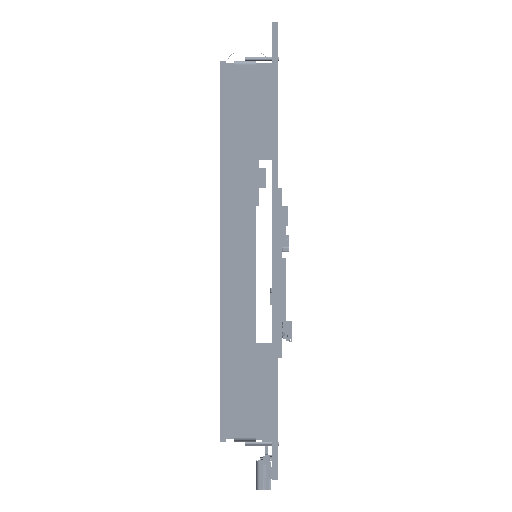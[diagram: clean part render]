
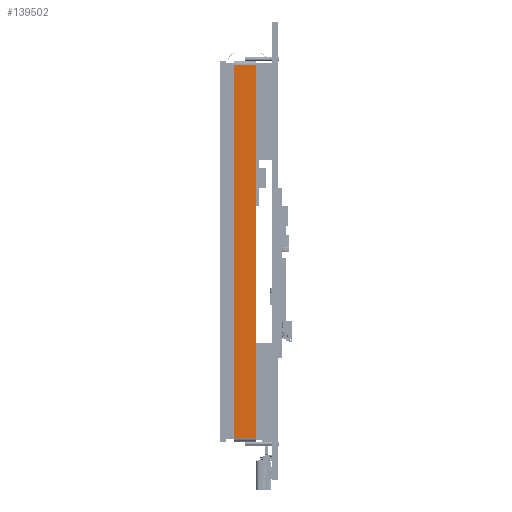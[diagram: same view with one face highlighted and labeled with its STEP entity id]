
A CAD part, left-side view. The second image highlights one B-rep face of the part: STEP entity #139502.
In plain terms, the highlighted planar face has unit normal (-1, 0, 0).
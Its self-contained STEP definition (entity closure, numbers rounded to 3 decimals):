
#13841 = CARTESIAN_POINT ( 'NONE',  ( -36.209, 5.8, -28.694 ) ) ;
#14474 = DIRECTION ( 'NONE',  ( 1., 0., 0. ) ) ;
#16159 = ORIENTED_EDGE ( 'NONE', *, *, #118769, .F. ) ;
#29785 = EDGE_CURVE ( 'NONE', #74449, #86950, #33293, .T. ) ;
#29858 = CARTESIAN_POINT ( 'NONE',  ( -36.209, 5.8, 68.736 ) ) ;
#32312 = ORIENTED_EDGE ( 'NONE', *, *, #105052, .T. ) ;
#33293 = LINE ( 'NONE', #29858, #68452 ) ;
#44837 = DIRECTION ( 'NONE',  ( 0., 1., 0. ) ) ;
#51122 = CARTESIAN_POINT ( 'NONE',  ( -36.209, 5.8, -28.694 ) ) ;
#55352 = CARTESIAN_POINT ( 'NONE',  ( -36.209, 5.8, 68.736 ) ) ;
#58875 = CARTESIAN_POINT ( 'NONE',  ( -36.209, 0., -28.694 ) ) ;
#60474 = ORIENTED_EDGE ( 'NONE', *, *, #29785, .T. ) ;
#61342 = VECTOR ( 'NONE', #66273, 1000. ) ;
#66273 = DIRECTION ( 'NONE',  ( 0., 0., 1. ) ) ;
#68452 = VECTOR ( 'NONE', #44837, 1000. ) ;
#74449 = VERTEX_POINT ( 'NONE', #177115 ) ;
#86950 = VERTEX_POINT ( 'NONE', #55352 ) ;
#87112 = LINE ( 'NONE', #58875, #166539 ) ;
#100265 = CARTESIAN_POINT ( 'NONE',  ( -36.209, 5.8, -27.694 ) ) ;
#100418 = CARTESIAN_POINT ( 'NONE',  ( -36.209, 0., -27.694 ) ) ;
#104052 = PLANE ( 'NONE',  #175184 ) ;
#105052 = EDGE_CURVE ( 'NONE', #140941, #130207, #147129, .T. ) ;
#107450 = VECTOR ( 'NONE', #189656, 1000. ) ;
#118769 = EDGE_CURVE ( 'NONE', #140941, #86950, #180516, .T. ) ;
#119112 = DIRECTION ( 'NONE',  ( 0., 0., -1. ) ) ;
#130207 = VERTEX_POINT ( 'NONE', #100418 ) ;
#139502 = ADVANCED_FACE ( 'NONE', ( #177886 ), #104052, .F. ) ;
#140696 = CARTESIAN_POINT ( 'NONE',  ( -36.209, 5.8, -27.694 ) ) ;
#140941 = VERTEX_POINT ( 'NONE', #140696 ) ;
#147129 = LINE ( 'NONE', #100265, #107450 ) ;
#148359 = EDGE_CURVE ( 'NONE', #130207, #74449, #87112, .T. ) ;
#153462 = ORIENTED_EDGE ( 'NONE', *, *, #148359, .T. ) ;
#163410 = DIRECTION ( 'NONE',  ( 0., 0., 1. ) ) ;
#166539 = VECTOR ( 'NONE', #163410, 1000. ) ;
#168286 = EDGE_LOOP ( 'NONE', ( #153462, #60474, #16159, #32312 ) ) ;
#175184 = AXIS2_PLACEMENT_3D ( 'NONE', #13841, #14474, #119112 ) ;
#177115 = CARTESIAN_POINT ( 'NONE',  ( -36.209, 0., 68.736 ) ) ;
#177886 = FACE_OUTER_BOUND ( 'NONE', #168286, .T. ) ;
#180516 = LINE ( 'NONE', #51122, #61342 ) ;
#189656 = DIRECTION ( 'NONE',  ( 0., -1., 0. ) ) ;
